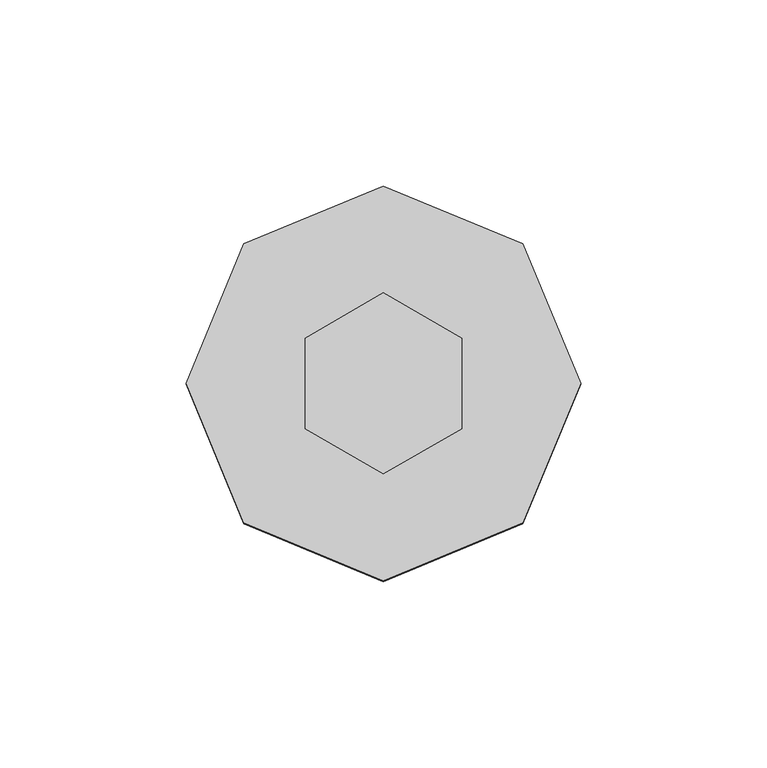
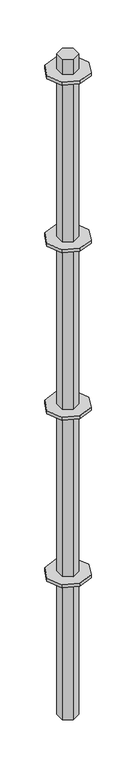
"""IFC4 building model written with IfcOpenShell, lengths in millimetres: proxy geometry, AK_アルバトロスＡＫ支柱L=1800_軽 : AK_アルバトロスＡＫ支柱L=1800."""

from ifc_helpers import new_model, si_unit, frame, origin, origin_with_axes, place, context, project, spatial, polyline, outline, extrude, source, transform, mapped, element, save


def generic_models_16b3c78d(model_context):
    return source(origin(), model_context, "Body", "SweptSolid", [
        extrude(outline(polyline([(-37.4766594, 37.4766594), (0.0, 53.0), (37.4766594, 37.4766594), (53.0, 0.0), (37.4766594, -37.4766594), (0.0, -53.0), (-37.4766594, -37.4766594), (-53.0, 0.0), (-37.4766594, 37.4766594)])), frame((0.0, 0.0, 1726.0), z_axis=(0.0, 0.0, 1.0), x_axis=(1.0, 0.0, 0.0)), (0.0, 0.0, 1.0), 8.0),
        extrude(outline(polyline([(-37.4766594, 37.4766594), (0.0, 53.0), (37.4766594, 37.4766594), (53.0, 0.0), (37.4766594, -37.4766594), (0.0, -53.0), (-37.4766594, -37.4766594), (-53.0, 0.0), (-37.4766594, 37.4766594)])), frame((0.0, 0.0, 1276.0), z_axis=(0.0, 0.0, 1.0), x_axis=(1.0, 0.0, 0.0)), (0.0, 0.0, 1.0), 8.0),
        extrude(outline(polyline([(-37.4766594, 37.4766594), (0.0, 53.0), (37.4766594, 37.4766594), (53.0, 0.0), (37.4766594, -37.4766594), (0.0, -53.0), (-37.4766594, -37.4766594), (-53.0, 0.0), (-37.4766594, 37.4766594)])), frame((0.0, 0.0, 826.0), z_axis=(0.0, 0.0, 1.0), x_axis=(1.0, 0.0, 0.0)), (0.0, 0.0, 1.0), 8.0),
        extrude(outline(polyline([(-37.4766594, 37.4766594), (0.0, 53.0), (37.4766594, 37.4766594), (53.0, 0.0), (37.4766594, -37.4766594), (0.0, -53.0), (-37.4766594, -37.4766594), (-53.0, 0.0), (-37.4766594, 37.4766594)])), frame((0.0, 0.0, 376.0), z_axis=(0.0, 0.0, 1.0), x_axis=(1.0, 0.0, 0.0)), (0.0, 0.0, 1.0), 8.0),
        extrude(outline(polyline([(-21.0444173, 12.15), (0.0, 24.3), (21.0444173, 12.15), (21.0444173, -12.15), (0.0, -24.3), (-21.0444173, -12.15), (-21.0444173, 12.15)])), origin_with_axes(), (0.0, 0.0, 1.0), 1775.0),
    ])


if __name__ == "__main__":
    model = new_model("IFC4")
    model_context = context("Model", 3, world=origin())
    ifc_project = project(units=[si_unit("LENGTHUNIT", "METRE", prefix="MILLI")], contexts=[model_context])
    site = spatial("IfcSite", under=ifc_project)
    building = spatial("IfcBuilding", under=site)
    placement = place(None, origin())
    generic_models_shape = generic_models_16b3c78d(model_context)
    element("IfcBuildingElementProxy", 1, Name="AK_アルバトロスＡＫ支柱L=1800_軽 : AK_アルバトロスＡＫ支柱L=1800", ObjectType="AK_アルバトロスＡＫ支柱L=1800_軽 : AK_アルバトロスＡＫ支柱L=1800", at=placement, inside=building, context=model_context, shape_type="MappedRepresentation", body=[
        mapped(generic_models_shape, transform((0.0, 0.0, 0.0), x_axis=(1.0, 0.0, 0.0), y_axis=(0.0, 1.0, 0.0), z_axis=(0.0, 0.0, 1.0))),
    ])
    save(model, "model.ifc")
